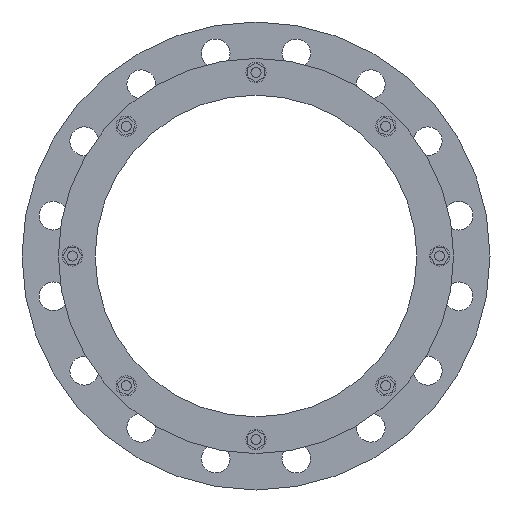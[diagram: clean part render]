
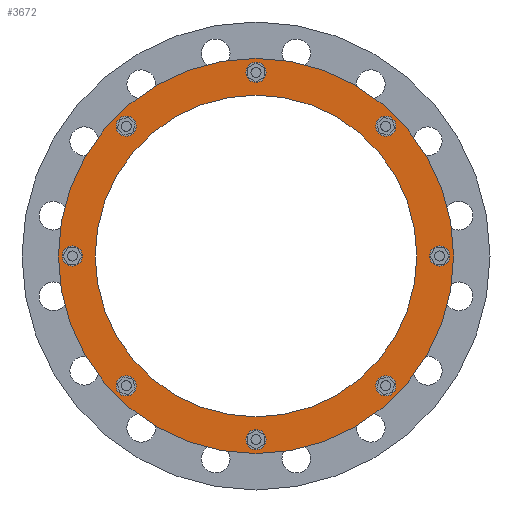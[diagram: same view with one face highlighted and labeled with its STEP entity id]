
A CAD part, front view. The second image highlights one B-rep face of the part: STEP entity #3672.
In plain terms, the highlighted planar face has unit normal (0, -1, 0).
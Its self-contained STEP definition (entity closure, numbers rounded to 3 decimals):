
#911=CARTESIAN_POINT('',(0.,-92.452,0.));
#912=DIRECTION('',(0.,-1.,0.));
#913=DIRECTION('',(1.,0.,0.));
#914=AXIS2_PLACEMENT_3D('',#911,#912,#913);
#916=CARTESIAN_POINT('',(0.,-92.452,0.));
#917=DIRECTION('',(0.,1.,0.));
#918=DIRECTION('',(1.,0.,0.));
#919=AXIS2_PLACEMENT_3D('',#916,#917,#918);
#921=CARTESIAN_POINT('',(217.75,-92.452,0.));
#922=DIRECTION('',(0.,-1.,0.));
#923=DIRECTION('',(0.,0.,-1.));
#924=AXIS2_PLACEMENT_3D('',#921,#922,#923);
#926=CARTESIAN_POINT('',(217.75,-92.452,0.));
#927=DIRECTION('',(0.,-1.,0.));
#928=DIRECTION('',(0.,0.,1.));
#929=AXIS2_PLACEMENT_3D('',#926,#927,#928);
#931=CARTESIAN_POINT('',(153.973,-92.452,153.973));
#932=DIRECTION('',(0.,-1.,0.));
#933=DIRECTION('',(0.707,0.,-0.707));
#934=AXIS2_PLACEMENT_3D('',#931,#932,#933);
#936=CARTESIAN_POINT('',(153.973,-92.452,153.973));
#937=DIRECTION('',(0.,-1.,0.));
#938=DIRECTION('',(-0.707,0.,0.707));
#939=AXIS2_PLACEMENT_3D('',#936,#937,#938);
#941=CARTESIAN_POINT('',(0.,-92.452,217.75));
#942=DIRECTION('',(0.,-1.,0.));
#943=DIRECTION('',(1.,0.,0.));
#944=AXIS2_PLACEMENT_3D('',#941,#942,#943);
#946=CARTESIAN_POINT('',(0.,-92.452,217.75));
#947=DIRECTION('',(0.,-1.,0.));
#948=DIRECTION('',(-1.,0.,0.));
#949=AXIS2_PLACEMENT_3D('',#946,#947,#948);
#951=CARTESIAN_POINT('',(-153.973,-92.452,153.973));
#952=DIRECTION('',(0.,-1.,0.));
#953=DIRECTION('',(0.707,0.,0.707));
#954=AXIS2_PLACEMENT_3D('',#951,#952,#953);
#956=CARTESIAN_POINT('',(-153.973,-92.452,153.973));
#957=DIRECTION('',(0.,-1.,0.));
#958=DIRECTION('',(-0.707,0.,-0.707));
#959=AXIS2_PLACEMENT_3D('',#956,#957,#958);
#961=CARTESIAN_POINT('',(-217.75,-92.452,0.));
#962=DIRECTION('',(0.,-1.,0.));
#963=DIRECTION('',(0.,0.,1.));
#964=AXIS2_PLACEMENT_3D('',#961,#962,#963);
#966=CARTESIAN_POINT('',(-217.75,-92.452,0.));
#967=DIRECTION('',(0.,-1.,0.));
#968=DIRECTION('',(0.,0.,-1.));
#969=AXIS2_PLACEMENT_3D('',#966,#967,#968);
#971=CARTESIAN_POINT('',(-153.973,-92.452,-153.973));
#972=DIRECTION('',(0.,-1.,0.));
#973=DIRECTION('',(-0.707,0.,0.707));
#974=AXIS2_PLACEMENT_3D('',#971,#972,#973);
#976=CARTESIAN_POINT('',(-153.973,-92.452,-153.973));
#977=DIRECTION('',(0.,-1.,0.));
#978=DIRECTION('',(0.707,0.,-0.707));
#979=AXIS2_PLACEMENT_3D('',#976,#977,#978);
#981=CARTESIAN_POINT('',(0.,-92.452,-217.75));
#982=DIRECTION('',(0.,-1.,0.));
#983=DIRECTION('',(-1.,0.,0.));
#984=AXIS2_PLACEMENT_3D('',#981,#982,#983);
#986=CARTESIAN_POINT('',(0.,-92.452,-217.75));
#987=DIRECTION('',(0.,-1.,0.));
#988=DIRECTION('',(1.,0.,0.));
#989=AXIS2_PLACEMENT_3D('',#986,#987,#988);
#991=CARTESIAN_POINT('',(153.973,-92.452,-153.973));
#992=DIRECTION('',(0.,-1.,0.));
#993=DIRECTION('',(-0.707,0.,-0.707));
#994=AXIS2_PLACEMENT_3D('',#991,#992,#993);
#996=CARTESIAN_POINT('',(153.973,-92.452,-153.973));
#997=DIRECTION('',(0.,-1.,0.));
#998=DIRECTION('',(0.707,0.,0.707));
#999=AXIS2_PLACEMENT_3D('',#996,#997,#998);
#1001=CARTESIAN_POINT('',(0.,-92.452,0.));
#1002=DIRECTION('',(0.,1.,0.));
#1003=DIRECTION('',(1.,0.,0.));
#1004=AXIS2_PLACEMENT_3D('',#1001,#1002,#1003);
#1014=CARTESIAN_POINT('',(0.,-92.452,0.));
#1015=DIRECTION('',(0.,-1.,0.));
#1016=DIRECTION('',(1.,0.,0.));
#1017=AXIS2_PLACEMENT_3D('',#1014,#1015,#1016);
#2385=CARTESIAN_POINT('',(234.35,-92.452,0.));
#2387=VERTEX_POINT('',#2385);
#2388=CARTESIAN_POINT('',(190.75,-92.452,0.));
#2390=VERTEX_POINT('',#2388);
#2397=CARTESIAN_POINT('',(-234.35,-92.452,0.));
#2399=VERTEX_POINT('',#2397);
#2400=CARTESIAN_POINT('',(-190.75,-92.452,0.));
#2402=VERTEX_POINT('',#2400);
#2439=CARTESIAN_POINT('',(217.75,-92.452,-12.));
#2440=CARTESIAN_POINT('',(217.75,-92.452,12.));
#2441=VERTEX_POINT('',#2439);
#2442=VERTEX_POINT('',#2440);
#2488=CARTESIAN_POINT('',(162.458,-92.452,145.487));
#2489=VERTEX_POINT('',#2488);
#2490=CARTESIAN_POINT('',(145.487,-92.452,162.458));
#2491=VERTEX_POINT('',#2490);
#2532=CARTESIAN_POINT('',(12.,-92.452,217.75));
#2533=VERTEX_POINT('',#2532);
#2534=CARTESIAN_POINT('',(-12.,-92.452,217.75));
#2535=VERTEX_POINT('',#2534);
#2576=CARTESIAN_POINT('',(-145.487,-92.452,162.458));
#2577=VERTEX_POINT('',#2576);
#2578=CARTESIAN_POINT('',(-162.458,-92.452,145.487));
#2579=VERTEX_POINT('',#2578);
#2620=CARTESIAN_POINT('',(-217.75,-92.452,12.));
#2621=VERTEX_POINT('',#2620);
#2622=CARTESIAN_POINT('',(-217.75,-92.452,-12.));
#2623=VERTEX_POINT('',#2622);
#2664=CARTESIAN_POINT('',(-162.458,-92.452,-145.487));
#2665=VERTEX_POINT('',#2664);
#2666=CARTESIAN_POINT('',(-145.487,-92.452,-162.458));
#2667=VERTEX_POINT('',#2666);
#2708=CARTESIAN_POINT('',(-12.,-92.452,-217.75));
#2709=VERTEX_POINT('',#2708);
#2710=CARTESIAN_POINT('',(12.,-92.452,-217.75));
#2711=VERTEX_POINT('',#2710);
#2752=CARTESIAN_POINT('',(145.487,-92.452,-162.458));
#2753=VERTEX_POINT('',#2752);
#2754=CARTESIAN_POINT('',(162.458,-92.452,-145.487));
#2755=VERTEX_POINT('',#2754);
#3609=CARTESIAN_POINT('',(0.,-92.452,0.));
#3610=DIRECTION('',(0.,1.,0.));
#3611=DIRECTION('',(-1.,0.,0.));
#3612=AXIS2_PLACEMENT_3D('',#3609,#3610,#3611);
#3613=PLANE('',#3612);
#3615=ORIENTED_EDGE('',*,*,#3614,.F.);
#3617=ORIENTED_EDGE('',*,*,#3616,.T.);
#3618=EDGE_LOOP('',(#3615,#3617));
#3619=FACE_OUTER_BOUND('',#3618,.F.);
#3621=ORIENTED_EDGE('',*,*,#3620,.F.);
#3623=ORIENTED_EDGE('',*,*,#3622,.T.);
#3624=EDGE_LOOP('',(#3621,#3623));
#3625=FACE_BOUND('',#3624,.F.);
#3627=ORIENTED_EDGE('',*,*,#3626,.T.);
#3629=ORIENTED_EDGE('',*,*,#3628,.T.);
#3630=EDGE_LOOP('',(#3627,#3629));
#3631=FACE_BOUND('',#3630,.F.);
#3633=ORIENTED_EDGE('',*,*,#3632,.T.);
#3635=ORIENTED_EDGE('',*,*,#3634,.T.);
#3636=EDGE_LOOP('',(#3633,#3635));
#3637=FACE_BOUND('',#3636,.F.);
#3639=ORIENTED_EDGE('',*,*,#3638,.T.);
#3641=ORIENTED_EDGE('',*,*,#3640,.T.);
#3642=EDGE_LOOP('',(#3639,#3641));
#3643=FACE_BOUND('',#3642,.F.);
#3645=ORIENTED_EDGE('',*,*,#3644,.T.);
#3647=ORIENTED_EDGE('',*,*,#3646,.T.);
#3648=EDGE_LOOP('',(#3645,#3647));
#3649=FACE_BOUND('',#3648,.F.);
#3651=ORIENTED_EDGE('',*,*,#3650,.T.);
#3653=ORIENTED_EDGE('',*,*,#3652,.T.);
#3654=EDGE_LOOP('',(#3651,#3653));
#3655=FACE_BOUND('',#3654,.F.);
#3657=ORIENTED_EDGE('',*,*,#3656,.T.);
#3659=ORIENTED_EDGE('',*,*,#3658,.T.);
#3660=EDGE_LOOP('',(#3657,#3659));
#3661=FACE_BOUND('',#3660,.F.);
#3662=ORIENTED_EDGE('',*,*,#3591,.T.);
#3663=ORIENTED_EDGE('',*,*,#3602,.T.);
#3664=EDGE_LOOP('',(#3662,#3663));
#3665=FACE_BOUND('',#3664,.F.);
#3667=ORIENTED_EDGE('',*,*,#3666,.T.);
#3669=ORIENTED_EDGE('',*,*,#3668,.T.);
#3670=EDGE_LOOP('',(#3667,#3669));
#3671=FACE_BOUND('',#3670,.F.);
#3672=ADVANCED_FACE('',(#3619,#3625,#3631,#3637,#3643,#3649,#3655,#3661,#3665,
#3671),#3613,.F.);
#915=CIRCLE('',#914,234.35);
#920=CIRCLE('',#919,234.35);
#925=CIRCLE('',#924,12.);
#930=CIRCLE('',#929,12.);
#935=CIRCLE('',#934,12.);
#940=CIRCLE('',#939,12.);
#945=CIRCLE('',#944,12.);
#950=CIRCLE('',#949,12.);
#955=CIRCLE('',#954,12.);
#960=CIRCLE('',#959,12.);
#965=CIRCLE('',#964,12.);
#970=CIRCLE('',#969,12.);
#975=CIRCLE('',#974,12.);
#980=CIRCLE('',#979,12.);
#985=CIRCLE('',#984,12.);
#990=CIRCLE('',#989,12.);
#995=CIRCLE('',#994,12.);
#1000=CIRCLE('',#999,12.);
#1005=CIRCLE('',#1004,190.75);
#1018=CIRCLE('',#1017,190.75);
#3591=EDGE_CURVE('',#2709,#2711,#985,.T.);
#3602=EDGE_CURVE('',#2711,#2709,#990,.T.);
#3614=EDGE_CURVE('',#2387,#2399,#915,.T.);
#3616=EDGE_CURVE('',#2387,#2399,#920,.T.);
#3620=EDGE_CURVE('',#2390,#2402,#1005,.T.);
#3622=EDGE_CURVE('',#2390,#2402,#1018,.T.);
#3626=EDGE_CURVE('',#2441,#2442,#925,.T.);
#3628=EDGE_CURVE('',#2442,#2441,#930,.T.);
#3632=EDGE_CURVE('',#2489,#2491,#935,.T.);
#3634=EDGE_CURVE('',#2491,#2489,#940,.T.);
#3638=EDGE_CURVE('',#2533,#2535,#945,.T.);
#3640=EDGE_CURVE('',#2535,#2533,#950,.T.);
#3644=EDGE_CURVE('',#2577,#2579,#955,.T.);
#3646=EDGE_CURVE('',#2579,#2577,#960,.T.);
#3650=EDGE_CURVE('',#2621,#2623,#965,.T.);
#3652=EDGE_CURVE('',#2623,#2621,#970,.T.);
#3656=EDGE_CURVE('',#2665,#2667,#975,.T.);
#3658=EDGE_CURVE('',#2667,#2665,#980,.T.);
#3666=EDGE_CURVE('',#2753,#2755,#995,.T.);
#3668=EDGE_CURVE('',#2755,#2753,#1000,.T.);
